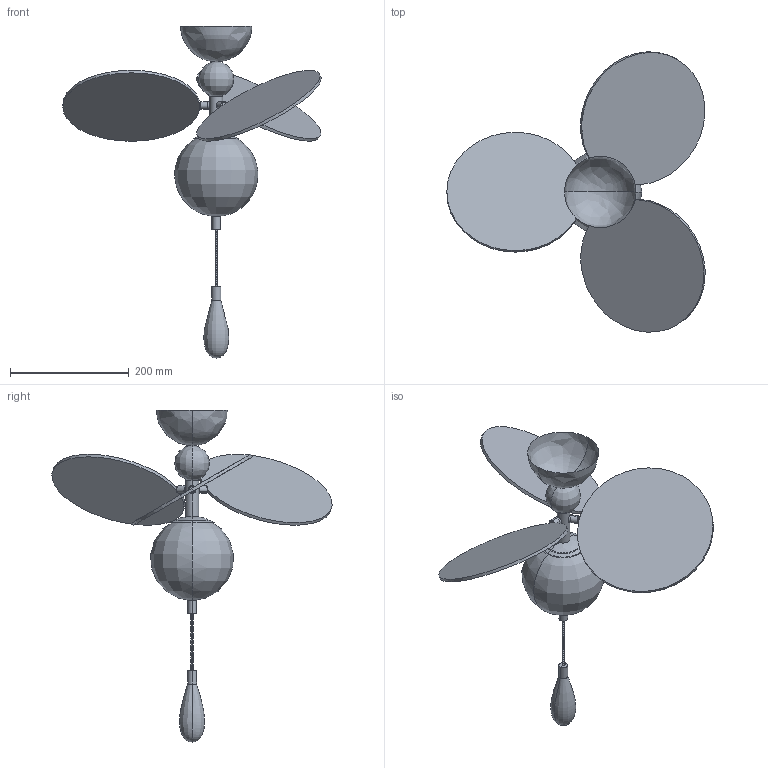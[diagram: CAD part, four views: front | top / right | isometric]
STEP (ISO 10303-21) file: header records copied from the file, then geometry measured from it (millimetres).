
FILE_DESCRIPTION(/* description */ (''),/* implementation_level */ '2;1');
FILE_NAME(/* name */ 'Celestial Spin Ceiling Lamp',/* time_stamp */ '2026-06-25T09:40:45+08:00',/* author */ (''),/* organization */ (''),/* preprocessor_version */ 'ST-DEVELOPER v19.2',/* originating_system */ 'Rhino 8.25',/* authorisation */ '');
FILE_SCHEMA (('CONFIG_CONTROL_DESIGN'));
Length unit declared in the file: millimetre
Products named in the file (1): Document
Bounding box: 434.3 x 471.29 x 558.32 mm (x, y, z)
Volume: 1010643.3 mm3; surface area: 412386.1 mm2
Topology: 43 solids, 46 shells, 154 faces, 350 edges, 157 vertices
Faces by surface type: bspline 78, plane 48, cylinder 28
Entity records: 5756 total; most frequent: CARTESIAN_POINT 3296, ORIENTED_EDGE 438, DIRECTION 366, EDGE_CURVE 222, AXIS2_PLACEMENT_3D 221, VERTEX_POINT 157, ADVANCED_FACE 154, FACE_OUTER_BOUND 154
